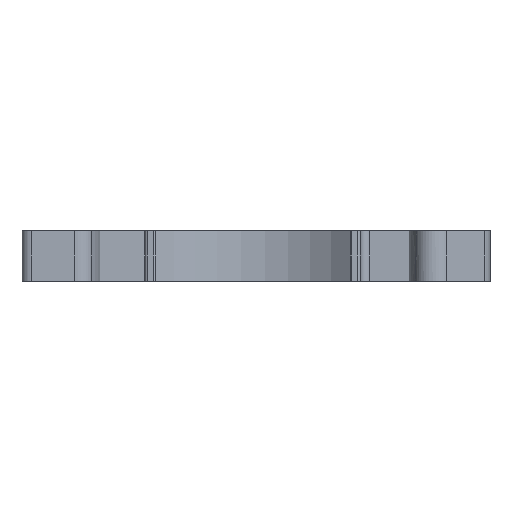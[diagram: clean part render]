
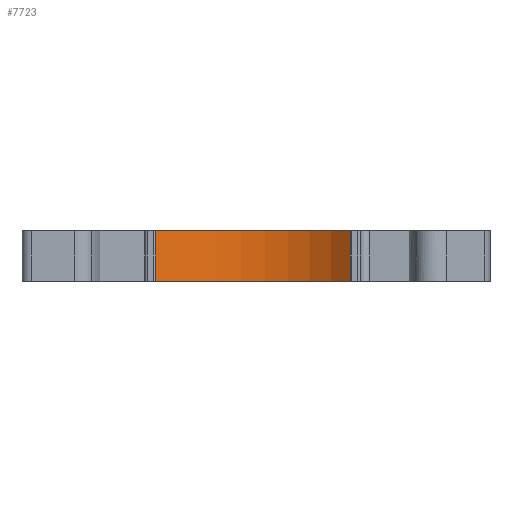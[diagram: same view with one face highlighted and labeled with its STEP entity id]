
A CAD part, front view. The second image highlights one B-rep face of the part: STEP entity #7723.
In plain terms, the highlighted cylindrical face has radius 15 mm (diameter 30 mm), a partial arc.
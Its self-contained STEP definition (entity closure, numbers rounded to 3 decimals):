
#580=CARTESIAN_POINT('',(-50.365,2.321,2.6));
#581=DIRECTION('',(0.,0.,1.));
#582=DIRECTION('',(0.674,0.739,0.));
#583=AXIS2_PLACEMENT_3D('',#580,#581,#582);
#645=CARTESIAN_POINT('',(-50.365,2.321,-2.6));
#646=DIRECTION('',(0.,0.,-1.));
#647=DIRECTION('',(-0.674,0.739,0.));
#648=AXIS2_PLACEMENT_3D('',#645,#646,#647);
#1027=DIRECTION('',(0.,0.,1.));
#1028=VECTOR('',#1027,5.2);
#1029=CARTESIAN_POINT('',(-60.477,13.4,
-2.6));
#1030=LINE('',#1029,#1028);
#1031=DIRECTION('',(0.,0.,1.));
#1032=VECTOR('',#1031,5.2);
#1033=CARTESIAN_POINT('',(-40.252,13.4,
-2.6));
#1034=LINE('',#1033,#1032);
#5802=CARTESIAN_POINT('',(-40.252,13.4,2.6));
#5803=VERTEX_POINT('',#5802);
#5804=CARTESIAN_POINT('',(-60.477,13.4,2.6));
#5805=VERTEX_POINT('',#5804);
#5840=CARTESIAN_POINT('',(-60.477,13.4,
-2.6));
#5841=VERTEX_POINT('',#5840);
#5842=CARTESIAN_POINT('',(-40.252,13.4,
-2.6));
#5843=VERTEX_POINT('',#5842);
#7711=CARTESIAN_POINT('',(-50.365,2.321,
-2.704));
#7712=DIRECTION('',(0.,0.,1.));
#7713=DIRECTION('',(1.,0.,0.));
#7714=AXIS2_PLACEMENT_3D('',#7711,#7712,#7713);
#7715=CYLINDRICAL_SURFACE('',#7714,15.);
#7716=ORIENTED_EDGE('',*,*,#7438,.F.);
#7717=ORIENTED_EDGE('',*,*,#7705,.T.);
#7718=ORIENTED_EDGE('',*,*,#7343,.F.);
#7720=ORIENTED_EDGE('',*,*,#7719,.F.);
#7721=EDGE_LOOP('',(#7716,#7717,#7718,#7720));
#7722=FACE_OUTER_BOUND('',#7721,.F.);
#584=CIRCLE('',#583,15.);
#649=CIRCLE('',#648,15.);
#7343=EDGE_CURVE('',#5803,#5805,#584,.T.);
#7438=EDGE_CURVE('',#5841,#5843,#649,.T.);
#7705=EDGE_CURVE('',#5841,#5805,#1030,.T.);
#7719=EDGE_CURVE('',#5843,#5803,#1034,.T.);
#7723=ADVANCED_FACE('',(#7722),#7715,.F.);
